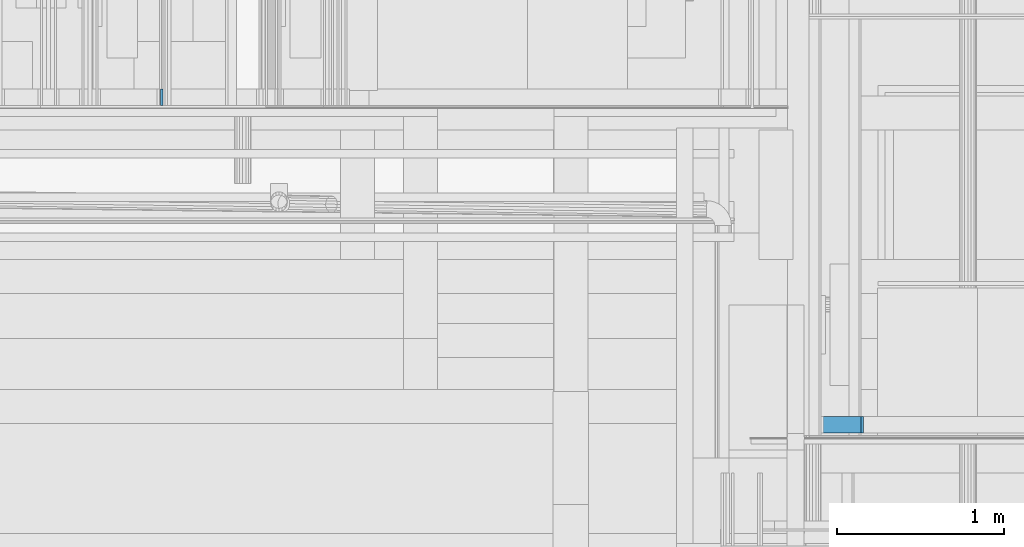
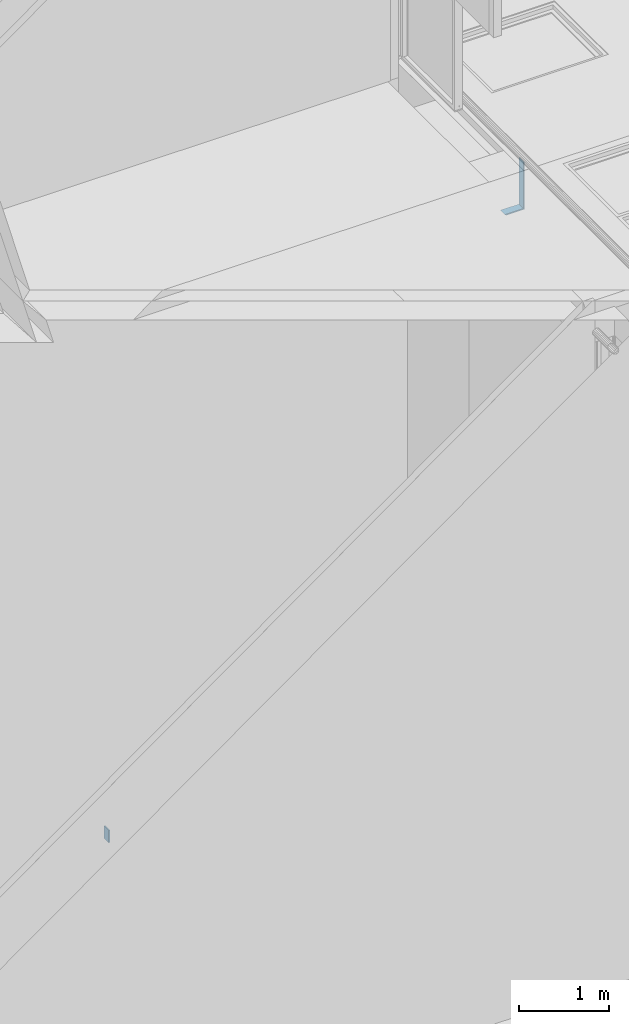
# One storey, part 190 of 583: 3 building element parts, 3 elements without a shape of their own.
"""IFC2X3 building model written with IfcOpenShell, lengths in metres."""

from ifc_helpers import new_model, entity, si_unit, converted_unit, derived_unit, money_unit, direction, frame, frame_2d, origin_with_axes, place, context, subcontext, project, spatial, polyline, rectangle, outline, extrude, material, type_object, element, aggregate, save


model = new_model("IFC2X3")

# Units and contexts
model_context = context("Model", 3, precision=1e-05, world=origin_with_axes(), true_north=direction((0.0, 1.0)))
body_context = subcontext(model_context, "Body", "Model", "MODEL_VIEW", scale=1.0)
ifc_project = project(units=[si_unit("LENGTHUNIT", "METRE"), si_unit("AREAUNIT", "SQUARE_METRE"), si_unit("VOLUMEUNIT", "CUBIC_METRE"), si_unit("ABSORBEDDOSEUNIT", "GRAY"), si_unit("AMOUNTOFSUBSTANCEUNIT", "MOLE"), si_unit("DOSEEQUIVALENTUNIT", "SIEVERT"), si_unit("ELECTRICCAPACITANCEUNIT", "FARAD"), si_unit("ELECTRICCHARGEUNIT", "COULOMB"), si_unit("ELECTRICCONDUCTANCEUNIT", "SIEMENS"), si_unit("ELECTRICCURRENTUNIT", "AMPERE"), si_unit("ELECTRICRESISTANCEUNIT", "OHM"), si_unit("ELECTRICVOLTAGEUNIT", "VOLT"), si_unit("ENERGYUNIT", "JOULE"), si_unit("FORCEUNIT", "NEWTON"), si_unit("FREQUENCYUNIT", "HERTZ"), si_unit("ILLUMINANCEUNIT", "LUX"), si_unit("INDUCTANCEUNIT", "HENRY"), si_unit("LUMINOUSFLUXUNIT", "LUMEN"), si_unit("LUMINOUSINTENSITYUNIT", "CANDELA"), si_unit("MAGNETICFLUXDENSITYUNIT", "TESLA"), si_unit("MAGNETICFLUXUNIT", "WEBER"), si_unit("MASSUNIT", "GRAM"), converted_unit("PLANEANGLEUNIT", "degree", entity("IfcReal", 0.0174532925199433), si_unit("PLANEANGLEUNIT", "RADIAN"), dimensions=[0, 0, 0, 0, 0, 0, 0]), si_unit("POWERUNIT", "WATT"), si_unit("PRESSUREUNIT", "PASCAL"), si_unit("RADIOACTIVITYUNIT", "BECQUEREL"), si_unit("SOLIDANGLEUNIT", "STERADIAN"), si_unit("THERMODYNAMICTEMPERATUREUNIT", "KELVIN"), si_unit("TIMEUNIT", "SECOND"), derived_unit("ACCELERATIONUNIT", [(si_unit("LENGTHUNIT", "METRE"), 1), (si_unit("TIMEUNIT", "SECOND"), -2)]), derived_unit("ANGULARVELOCITYUNIT", [(converted_unit("PLANEANGLEUNIT", "degree", entity("IfcReal", 0.0174532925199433), si_unit("PLANEANGLEUNIT", "RADIAN"), dimensions=[0, 0, 0, 0, 0, 0, 0]), 1), (si_unit("TIMEUNIT", "SECOND"), -1)]), derived_unit("CURVATUREUNIT", [(converted_unit("PLANEANGLEUNIT", "degree", entity("IfcReal", 0.0174532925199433), si_unit("PLANEANGLEUNIT", "RADIAN"), dimensions=[0, 0, 0, 0, 0, 0, 0]), 1), (si_unit("LENGTHUNIT", "METRE"), -1)]), derived_unit("DYNAMICVISCOSITYUNIT", [(si_unit("PRESSUREUNIT", "PASCAL"), 1), (si_unit("TIMEUNIT", "SECOND"), 1)]), derived_unit("HEATFLUXDENSITYUNIT", [(si_unit("POWERUNIT", "WATT"), 1), (si_unit("LENGTHUNIT", "METRE"), -2)]), derived_unit("HEATINGVALUEUNIT", [(si_unit("ENERGYUNIT", "JOULE"), 1), (si_unit("MASSUNIT", "GRAM"), -1)]), derived_unit("INTEGERCOUNTRATEUNIT", [(si_unit("TIMEUNIT", "SECOND"), -1)]), derived_unit("IONCONCENTRATIONUNIT", [(si_unit("MASSUNIT", "GRAM"), 1), (si_unit("VOLUMEUNIT", "CUBIC_METRE"), -1)]), derived_unit("ISOTHERMALMOISTURECAPACITYUNIT", [(si_unit("VOLUMEUNIT", "CUBIC_METRE"), 1), (si_unit("MASSUNIT", "GRAM"), -1)]), derived_unit("KINEMATICVISCOSITYUNIT", [(si_unit("AREAUNIT", "SQUARE_METRE"), 1), (si_unit("TIMEUNIT", "SECOND"), -1)]), derived_unit("LINEARFORCEUNIT", [(si_unit("FORCEUNIT", "NEWTON"), 1), (si_unit("LENGTHUNIT", "METRE"), -1)]), derived_unit("LINEARMOMENTUNIT", [(si_unit("FORCEUNIT", "NEWTON"), 1), (si_unit("LENGTHUNIT", "METRE"), -1)]), derived_unit("LINEARSTIFFNESSUNIT", [(si_unit("FORCEUNIT", "NEWTON"), 1), (si_unit("LENGTHUNIT", "METRE"), -1)]), derived_unit("LINEARVELOCITYUNIT", [(si_unit("LENGTHUNIT", "METRE"), 1), (si_unit("TIMEUNIT", "SECOND"), -1)]), derived_unit("LUMINOUSINTENSITYDISTRIBUTIONUNIT", [(si_unit("LUMINOUSINTENSITYUNIT", "CANDELA"), 1), (si_unit("LUMINOUSFLUXUNIT", "LUMEN"), -1)]), derived_unit("MASSDENSITYUNIT", [(si_unit("MASSUNIT", "GRAM"), 1), (si_unit("VOLUMEUNIT", "CUBIC_METRE"), -1)]), derived_unit("MASSFLOWRATEUNIT", [(si_unit("MASSUNIT", "GRAM"), 1), (si_unit("TIMEUNIT", "SECOND"), -1)]), derived_unit("MASSPERLENGTHUNIT", [(si_unit("MASSUNIT", "GRAM"), 1), (si_unit("LENGTHUNIT", "METRE"), -1)]), derived_unit("MODULUSOFELASTICITYUNIT", [(si_unit("FORCEUNIT", "NEWTON"), 1), (si_unit("AREAUNIT", "SQUARE_METRE"), -1)]), derived_unit("MODULUSOFLINEARSUBGRADEREACTIONUNIT", [(si_unit("FORCEUNIT", "NEWTON"), 1), (si_unit("LENGTHUNIT", "METRE"), -2)]), derived_unit("MODULUSOFROTATIONALSUBGRADEREACTIONUNIT", [(si_unit("FORCEUNIT", "NEWTON"), 1), (si_unit("LENGTHUNIT", "METRE"), 1)]), derived_unit("MODULUSOFSUBGRADEREACTIONUNIT", [(si_unit("FORCEUNIT", "NEWTON"), 1), (si_unit("VOLUMEUNIT", "CUBIC_METRE"), -1)]), derived_unit("MOISTUREDIFFUSIVITYUNIT", [(si_unit("VOLUMEUNIT", "CUBIC_METRE"), 1), (si_unit("TIMEUNIT", "SECOND"), -1)]), derived_unit("MOLECULARWEIGHTUNIT", [(si_unit("MASSUNIT", "GRAM"), 1), (si_unit("AMOUNTOFSUBSTANCEUNIT", "MOLE"), -1)]), derived_unit("PLANARFORCEUNIT", [(si_unit("FORCEUNIT", "NEWTON"), 1), (si_unit("LENGTHUNIT", "METRE"), -2)]), derived_unit("ROTATIONALFREQUENCYUNIT", [(si_unit("TIMEUNIT", "SECOND"), -1)]), derived_unit("ROTATIONALMASSUNIT", [(si_unit("MASSUNIT", "GRAM"), 1), (si_unit("LENGTHUNIT", "METRE"), 2)]), derived_unit("ROTATIONALSTIFFNESSUNIT", [(si_unit("FORCEUNIT", "NEWTON"), 1), (si_unit("LENGTHUNIT", "METRE"), 1), (converted_unit("PLANEANGLEUNIT", "degree", entity("IfcReal", 0.0174532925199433), si_unit("PLANEANGLEUNIT", "RADIAN"), dimensions=[0, 0, 0, 0, 0, 0, 0]), -1)]), derived_unit("SECTIONAREAINTEGRALUNIT", [(si_unit("LENGTHUNIT", "METRE"), 5)]), derived_unit("SECTIONMODULUSUNIT", [(si_unit("LENGTHUNIT", "METRE"), 3)]), derived_unit("SHEARMODULUSUNIT", [(si_unit("FORCEUNIT", "NEWTON"), 1), (si_unit("AREAUNIT", "SQUARE_METRE"), -1)]), derived_unit("SOUNDPOWERUNIT", [(si_unit("ENERGYUNIT", "JOULE"), 1), (si_unit("TIMEUNIT", "SECOND"), -1)]), derived_unit("SPECIFICHEATCAPACITYUNIT", [(si_unit("FORCEUNIT", "NEWTON"), 1), (si_unit("MASSUNIT", "GRAM"), -1), (si_unit("THERMODYNAMICTEMPERATUREUNIT", "KELVIN"), -1)]), derived_unit("TEMPERATUREGRADIENTUNIT", [(si_unit("THERMODYNAMICTEMPERATUREUNIT", "KELVIN"), 1), (si_unit("LENGTHUNIT", "METRE"), -1)]), derived_unit("THERMALADMITTANCEUNIT", [(si_unit("POWERUNIT", "WATT"), 1), (si_unit("AREAUNIT", "SQUARE_METRE"), -1), (si_unit("THERMODYNAMICTEMPERATUREUNIT", "KELVIN"), -1)]), derived_unit("THERMALCONDUCTANCEUNIT", [(si_unit("POWERUNIT", "WATT"), 1), (si_unit("LENGTHUNIT", "METRE"), -1), (si_unit("THERMODYNAMICTEMPERATUREUNIT", "KELVIN"), -1)]), derived_unit("THERMALEXPANSIONCOEFFICIENTUNIT", [(si_unit("THERMODYNAMICTEMPERATUREUNIT", "KELVIN"), -1)]), derived_unit("THERMALRESISTANCEUNIT", [(si_unit("AREAUNIT", "SQUARE_METRE"), 1), (si_unit("POWERUNIT", "WATT"), -1)]), derived_unit("THERMALTRANSMITTANCEUNIT", [(si_unit("POWERUNIT", "WATT"), 1), (si_unit("AREAUNIT", "SQUARE_METRE"), -1), (si_unit("THERMODYNAMICTEMPERATUREUNIT", "KELVIN"), -1)]), derived_unit("TORQUEUNIT", [(si_unit("FORCEUNIT", "NEWTON"), 1), (si_unit("LENGTHUNIT", "METRE"), 1)]), derived_unit("VAPORPERMEABILITYUNIT", [(si_unit("MASSUNIT", "GRAM"), 1), (si_unit("TIMEUNIT", "SECOND"), -1)]), derived_unit("VOLUMETRICFLOWRATEUNIT", [(si_unit("VOLUMEUNIT", "CUBIC_METRE"), 1), (si_unit("TIMEUNIT", "SECOND"), -1)]), derived_unit("WARPINGCONSTANTUNIT", [(si_unit("LENGTHUNIT", "METRE"), 6)]), derived_unit("WARPINGMOMENTUNIT", [(si_unit("FORCEUNIT", "NEWTON"), 1), (si_unit("LENGTHUNIT", "METRE"), 2)]), money_unit("GBP")], contexts=[model_context])

# Site, building, storey
site_placement = place(None, origin_with_axes())
site = spatial("IfcSite", under=ifc_project, at=site_placement, Name="Site", CompositionType="ELEMENT")
building_placement = place(site_placement, origin_with_axes())
building = spatial("IfcBuilding", under=site, at=building_placement, Name="Building01", CompositionType="ELEMENT")
storey_placement = place(building_placement, frame((0.0, 0.0, 20.78), z_axis=(0.0, 0.0, 1.0), x_axis=(1.0, 0.0, 0.0)))
storey = spatial("IfcBuildingStorey", under=building, at=storey_placement, Name="RL", CompositionType="ELEMENT", Elevation=20.78)

# Wall, building element part
wall_type_1 = type_object("IfcWallType", Name="SHE_A-Walls_Type06c_ExternalWallInsulation_60mm", PredefinedType="NOTDEFINED")
wall_1_placement = place(storey_placement, frame((14.93, 3.185, -12.263107), z_axis=(0.0, 1.0, 0.0), x_axis=(1.0, 0.0, 0.0)))
wall_1 = element("IfcWall", 1, at=wall_1_placement, inside=storey, type_object=wall_type_1, Name="6C", ObjectType="SHE_A-Walls_Type06c_ExternalWallInsulation_60mm")
ifc_material = material(Name="A_BSUK_Walls_Timber")
building_element_part_1_placement = place(wall_1_placement, origin_with_axes())
building_element_part_1 = element("IfcBuildingElementPart", 2, at=building_element_part_1_placement, material=ifc_material, Name="2", context=body_context, shape_type="SweptSolid", body=[
    extrude(outline(polyline([(0.325, 0.087), (0.087, 0.087), (0.072, 0.072), (0.31, 0.072), (0.325, 0.087)])), frame((0.0, 0.0, 0.015), z_axis=(0.0, 0.0, 1.0), x_axis=(1.0, 0.0, 0.0)), (0.0, 0.0, 1.0), 0.1),
])
aggregate(wall_1, [building_element_part_1])

wall_2_placement = place(storey_placement, frame((15.168, 3.185, -12.263107), z_axis=(0.0, 1.0, 0.0), x_axis=(0.0, 0.0, 1.0)))
wall_2 = element("IfcWall", 3, at=wall_2_placement, inside=storey, type_object=wall_type_1, Name="6C", ObjectType="SHE_A-Walls_Type06c_ExternalWallInsulation_60mm")
building_element_part_2_placement = place(wall_2_placement, origin_with_axes())
building_element_part_2 = element("IfcBuildingElementPart", 4, at=building_element_part_2_placement, material=ifc_material, Name="2", context=body_context, shape_type="SweptSolid", body=[
    extrude(outline(polyline([(0.550372, 0.087), (-0.087, 0.087), (-0.072, 0.072), (0.565372, 0.072), (0.550372, 0.087)])), frame((0.0, 0.0, 0.015), z_axis=(0.0, 0.0, 1.0), x_axis=(1.0, 0.0, 0.0)), (0.0, 0.0, 1.0), 0.1),
])
aggregate(wall_2, [building_element_part_2])

wall_type_2 = type_object("IfcWallType", Name="SHE_A-Walls_Type06d_ExternalWallInsulation_48mm", PredefinedType="NOTDEFINED")
wall_3_placement = place(storey_placement, frame((11.103, 5.15, -20.474), z_axis=(0.0, 1.0, 0.0), x_axis=(0.0, 0.0, -1.0)))
wall_3 = element("IfcWall", 5, at=wall_3_placement, inside=storey, type_object=wall_type_2, Name="6D", ObjectType="SHE_A-Walls_Type06d_ExternalWallInsulation_48mm")
building_element_part_3_placement = place(wall_3_placement, origin_with_axes())
building_element_part_3 = element("IfcBuildingElementPart", 6, at=building_element_part_3_placement, material=ifc_material, Name="2", context=body_context, shape_type="SweptSolid", body=[
    extrude(rectangle(XDim=0.17, YDim=0.015, at=frame_2d((0.121, 0.0555), x_axis=(1.0, 0.0))), frame((0.0, 0.0, 0.015), z_axis=(0.0, 0.0, 1.0), x_axis=(1.0, 0.0, 0.0)), (0.0, 0.0, 1.0), 0.1),
])
aggregate(wall_3, [building_element_part_3])

save(model, "model.ifc")
